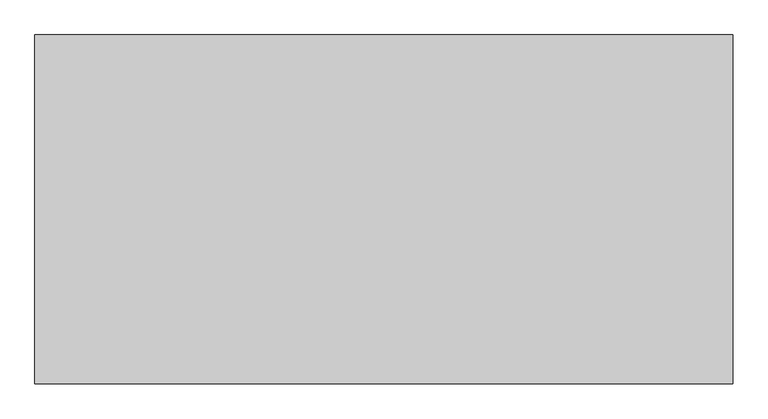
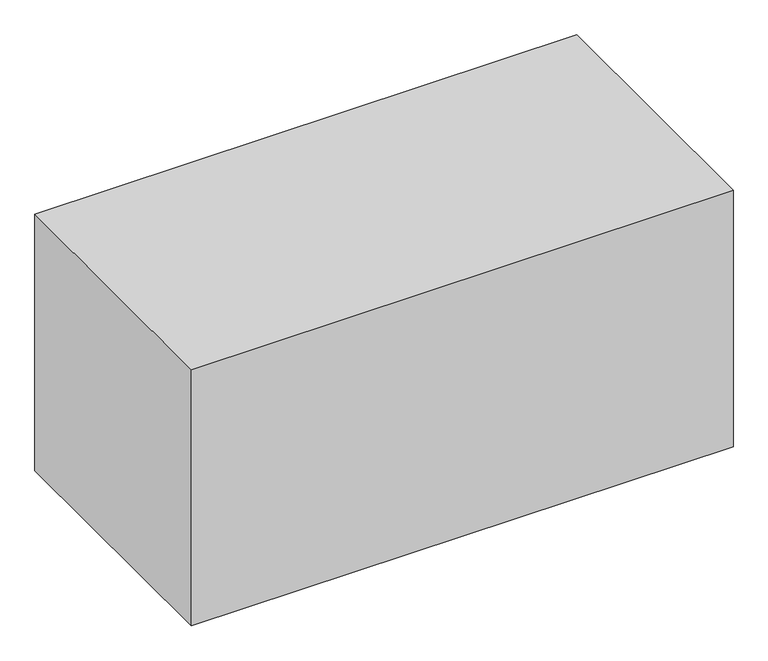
"""IFC4 building model written with IfcOpenShell, lengths in millimetres: proxy geometry, Rodina1 : Rodina1."""

from ifc_helpers import new_model, si_unit, origin, origin_with_axes, place, context, project, spatial, polyline, outline, extrude, source, transform, mapped, element, save


def generic_models_0a1efdf9(model_context):
    return source(origin(), model_context, "Body", "SweptSolid", [
        extrude(outline(polyline([(2000.0, 0.0), (0.0, 0.0), (0.0, 1000.0), (2000.0, 1000.0), (2000.0, 0.0)])), origin_with_axes(), (0.0, 0.0, 1.0), 1000.0),
    ])


if __name__ == "__main__":
    model = new_model("IFC4")
    model_context = context("Model", 3, world=origin())
    ifc_project = project(units=[si_unit("LENGTHUNIT", "METRE", prefix="MILLI")], contexts=[model_context])
    site = spatial("IfcSite", under=ifc_project)
    building = spatial("IfcBuilding", under=site)
    placement = place(None, origin())
    generic_models_shape = generic_models_0a1efdf9(model_context)
    element("IfcBuildingElementProxy", 1, Name="Rodina1 : Rodina1", ObjectType="Rodina1 : Rodina1", at=placement, inside=building, context=model_context, shape_type="MappedRepresentation", body=[
        mapped(generic_models_shape, transform((0.0, 0.0, 0.0), x_axis=(1.0, 0.0, 0.0), y_axis=(0.0, 1.0, 0.0), z_axis=(0.0, 0.0, 1.0))),
    ])
    save(model, "model.ifc")
